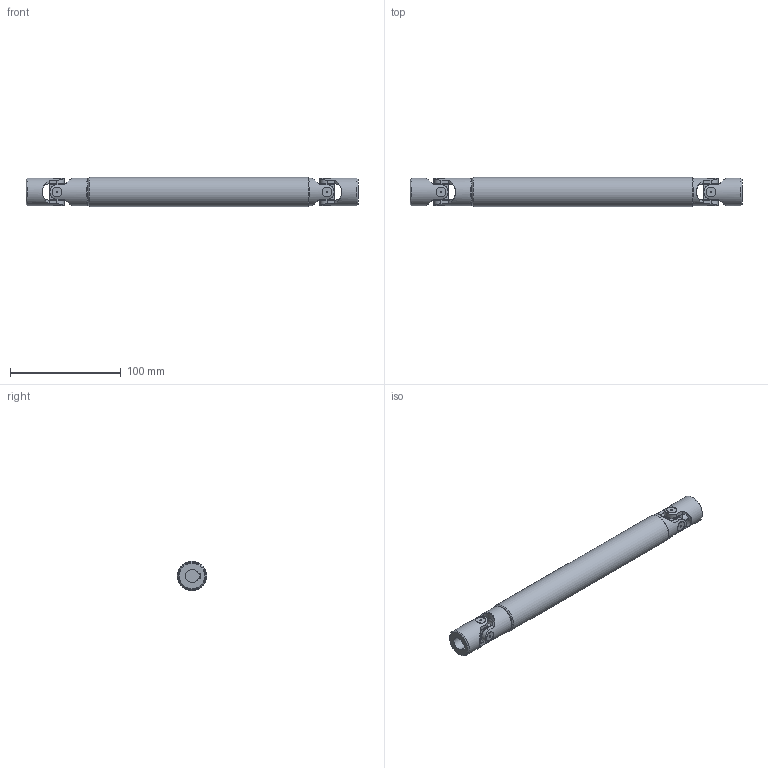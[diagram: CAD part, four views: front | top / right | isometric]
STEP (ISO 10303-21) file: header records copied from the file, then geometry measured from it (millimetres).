
FILE_DESCRIPTION(/* description */ (''),/* implementation_level */ '2;1');
FILE_NAME(/* name */ '\\SRV2016\Societa\Stefano\Disegni 3D\00Catalogo 3D\03Trasmissioni standard GA\!04GA32\!04GA32_SG0A1232.stp',/* time_stamp */ '2022-02-15T10:55:33+01:00',/* author */ ('acquisti'),/* organization */ (''),/* preprocessor_version */ 'ST-DEVELOPER v15.6',/* originating_system */ 'Autodesk Inventor 2015',/* authorisation */ '');
FILE_SCHEMA (('AUTOMOTIVE_DESIGN { 1 0 10303 214 3 1 1 }'));
Length unit declared in the file: millimetre
Products named in the file (5): !04GA32 LCI; !04GA32 LAI; 04G MOC; 04G SFE; !04GA32_SG0A1232
Assembly tree (6 placements, depth 2):
  !04GA32_SG0A1232
    !04GA32 LCI
    !04GA32 LAI
    04G MOC  x2
    04G SFE  x2
Bounding box: 300 x 26.5 x 26.5 mm (x, y, z)
Volume: 115963.9 mm3; surface area: 56406.6 mm2
Topology: 6 solids, 6 shells, 228 faces, 559 edges, 367 vertices
Faces by surface type: plane 106, cylinder 93, cone 25, torus 4
Full cylindrical faces by diameter (mm): 1.5 x8, 12 x1, 12.5 x8, 13 x2, 21 x1, 25 x4, 26.5 x1
Entity records: 5789 total; most frequent: CARTESIAN_POINT 1679, DIRECTION 823, ORIENTED_EDGE 820, EDGE_CURVE 410, AXIS2_PLACEMENT_3D 335, VERTEX_POINT 286, EDGE_LOOP 224, FACE_OUTER_BOUND 176
